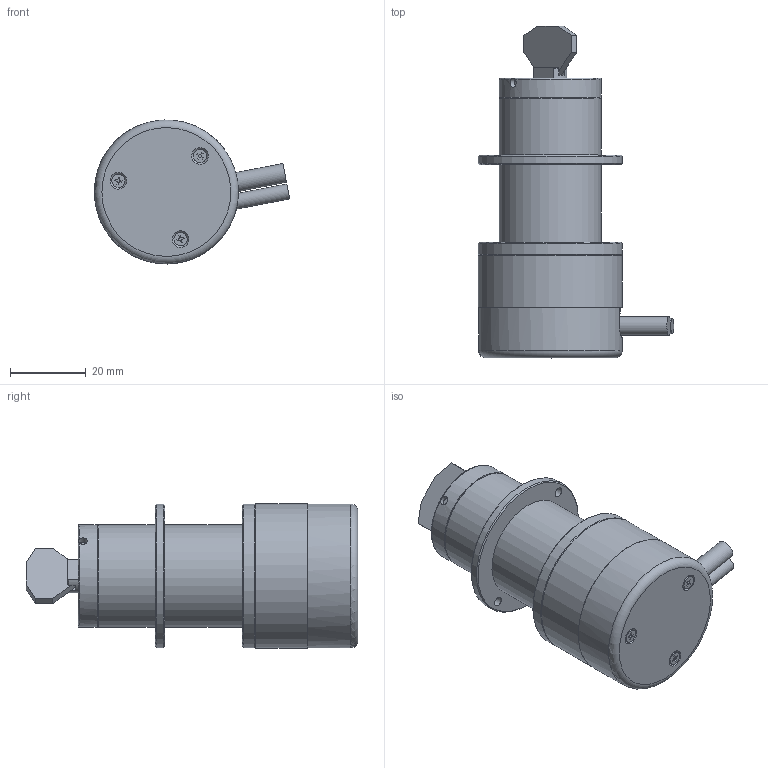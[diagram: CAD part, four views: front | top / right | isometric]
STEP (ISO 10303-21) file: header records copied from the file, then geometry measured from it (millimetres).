
FILE_DESCRIPTION (( 'STEP AP203' ), '1' );
FILE_NAME ('OD15_10mmX.STEP', '2025-03-19T08:20:33', ( 'zouluheng@hotmail.com' ), ( '' ), 'SwSTEP 2.0', 'SolidWorks 2023', '' );
FILE_SCHEMA (( 'CONFIG_CONTROL_DESIGN' ));
Length unit declared in the file: millimetre
Products named in the file (1): OD15_10mmX
Bounding box: 51.52 x 87.55 x 37.99 mm (x, y, z)
Surface area: 15547.1 mm2 (no closed solid volume)
Topology: 0 solids, 23 shells, 171 faces, 543 edges, 384 vertices
Faces by surface type: plane 102, cylinder 50, cone 14, torus 3, sphere 2
Full cylindrical faces by diameter (mm): 1 x2, 2.3 x2, 2.5 x2, 2.7 x2, 3.5 x3, 4 x1, 4.5 x2, 5 x1, 12 x2, 27 x3, 35.4 x1, 37 x1, 38 x4
Entity records: 6110 total; most frequent: CARTESIAN_POINT 1326, DIRECTION 996, ORIENTED_EDGE 823, EDGE_CURVE 496, VERTEX_POINT 376, AXIS2_PLACEMENT_3D 374, EDGE_LOOP 273, LINE 248
